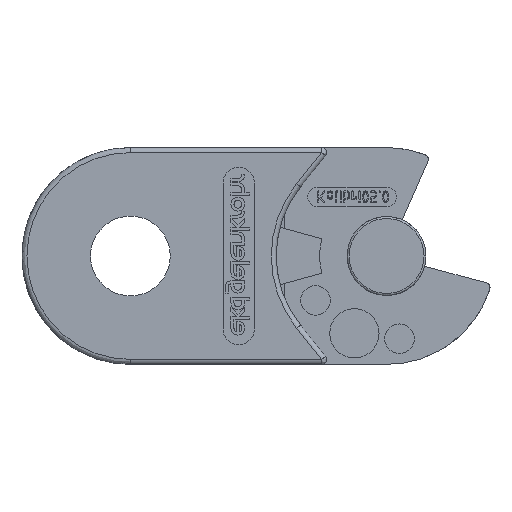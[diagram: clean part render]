
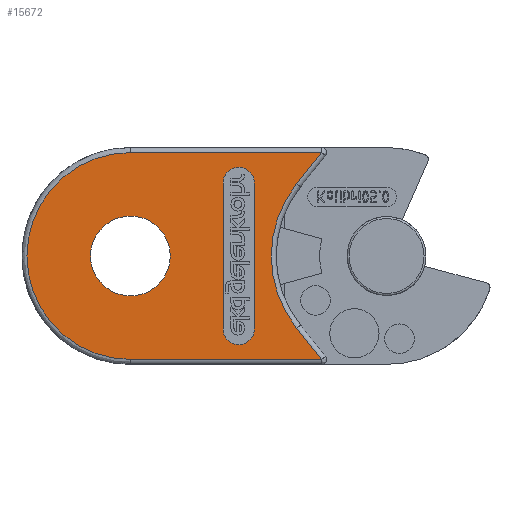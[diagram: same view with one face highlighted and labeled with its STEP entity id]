
A CAD part, left-side view. The second image highlights one B-rep face of the part: STEP entity #15672.
In plain terms, the highlighted free-form (B-spline) face has degree [1, 1] with [2, 2] control points.
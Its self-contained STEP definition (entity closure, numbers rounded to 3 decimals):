
#1018=CARTESIAN_POINT('',(-2.8,8.95,11.));
#1019=VERTEX_POINT('',#1018);
#1020=CARTESIAN_POINT('',(-2.8,13.,11.));
#1021=DIRECTION('',(-1.0,0.0,0.0));
#1022=DIRECTION('',(0.0,1.0,0.0));
#1023=AXIS2_PLACEMENT_3D('',#1020,#1021,#1022);
#1024=CIRCLE('',#1023,4.05);
#1025=EDGE_CURVE('',#1019,#1019,#1024,.T.);
#1256=CARTESIAN_POINT('',(-2.8,13.,0.5));
#1257=VERTEX_POINT('',#1256);
#1273=CARTESIAN_POINT('',(-2.8,-6.419,0.5));
#1274=VERTEX_POINT('',#1273);
#1282=CARTESIAN_POINT('',(-2.8,13.,0.5));
#1283=DIRECTION('',(0.0,-1.0,0.0));
#1284=VECTOR('',#1283,19.419);
#1285=LINE('',#1282,#1284);
#1286=EDGE_CURVE('',#1257,#1274,#1285,.T.);
#1317=CARTESIAN_POINT('',(-2.8,-6.419,21.5));
#1318=VERTEX_POINT('',#1317);
#1334=CARTESIAN_POINT('',(-2.8,13.,21.5));
#1335=VERTEX_POINT('',#1334);
#1343=CARTESIAN_POINT('',(-2.8,-6.419,21.5));
#1344=DIRECTION('',(0.0,1.0,0.0));
#1345=VECTOR('',#1344,19.419);
#1346=LINE('',#1343,#1345);
#1347=EDGE_CURVE('',#1318,#1335,#1346,.T.);
#1393=CARTESIAN_POINT('',(-2.8,-3.868,3.686));
#1394=VERTEX_POINT('',#1393);
#1402=CARTESIAN_POINT('',(-2.8,-6.419,0.5));
#1403=DIRECTION('',(0.0,0.625,0.781));
#1404=VECTOR('',#1403,4.082);
#1405=LINE('',#1402,#1404);
#1406=EDGE_CURVE('',#1274,#1394,#1405,.T.);
#1439=CARTESIAN_POINT('',(-2.8,-3.868,18.314));
#1440=VERTEX_POINT('',#1439);
#1461=CARTESIAN_POINT('',(-2.8,-3.868,18.314));
#1462=DIRECTION('',(0.0,-0.625,0.781));
#1463=VECTOR('',#1462,4.082);
#1464=LINE('',#1461,#1463);
#1465=EDGE_CURVE('',#1440,#1318,#1464,.T.);
#13563=CARTESIAN_POINT('',(-2.8,3.6,3.6));
#13564=VERTEX_POINT('',#13563);
#13565=CARTESIAN_POINT('',(-2.8,0.4,3.6));
#13566=VERTEX_POINT('',#13565);
#13567=CARTESIAN_POINT('',(-2.8,2.,3.6));
#13568=DIRECTION('',(-1.0,0.0,0.0));
#13569=DIRECTION('',(0.0,-1.0,0.0));
#13570=AXIS2_PLACEMENT_3D('',#13567,#13568,#13569);
#13571=CIRCLE('',#13570,1.6);
#13572=EDGE_CURVE('',#13564,#13566,#13571,.T.);
#13605=CARTESIAN_POINT('',(-2.8,0.4,18.4));
#13606=VERTEX_POINT('',#13605);
#13607=CARTESIAN_POINT('',(-2.8,0.4,3.6));
#13608=DIRECTION('',(0.0,0.0,1.0));
#13609=VECTOR('',#13608,14.8);
#13610=LINE('',#13607,#13609);
#13611=EDGE_CURVE('',#13566,#13606,#13610,.T.);
#15601=CARTESIAN_POINT('',(-2.8,3.6,18.4));
#15602=VERTEX_POINT('',#15601);
#15603=CARTESIAN_POINT('',(-2.8,2.,18.4));
#15604=DIRECTION('',(-1.0,0.0,0.0));
#15605=DIRECTION('',(0.0,-1.0,0.0));
#15606=AXIS2_PLACEMENT_3D('',#15603,#15604,#15605);
#15607=CIRCLE('',#15606,1.6);
#15608=EDGE_CURVE('',#13606,#15602,#15607,.T.);
#15626=CARTESIAN_POINT('',(-2.8,3.6,18.4));
#15627=DIRECTION('',(0.0,0.0,-1.0));
#15628=VECTOR('',#15627,14.8);
#15629=LINE('',#15626,#15628);
#15630=EDGE_CURVE('',#15602,#13564,#15629,.T.);
#15638=CARTESIAN_POINT('',(-2.8,23.5,21.5));
#15639=CARTESIAN_POINT('',(-2.8,23.5,0.5));
#15640=CARTESIAN_POINT('',(-2.8,-6.419,21.5));
#15641=CARTESIAN_POINT('',(-2.8,-6.419,0.5));
#15642=B_SPLINE_SURFACE_WITH_KNOTS('',1,1,((#15638,#15640),(#15639,#15641)),.UNSPECIFIED.,.F.,.F.,.U.,(2,2),(2,2),(0.0,21.),(0.0,29.919),.UNSPECIFIED.);
#15643=ORIENTED_EDGE('',*,*,#1465,.T.);
#15644=ORIENTED_EDGE('',*,*,#1347,.T.);
#15645=CARTESIAN_POINT('',(-2.8,13.,11.));
#15646=DIRECTION('',(-1.0,0.0,0.0));
#15647=DIRECTION('',(0.0,1.0,0.0));
#15648=AXIS2_PLACEMENT_3D('',#15645,#15646,#15647);
#15649=CIRCLE('',#15648,10.5);
#15650=EDGE_CURVE('',#1335,#1257,#15649,.T.);
#15651=ORIENTED_EDGE('',*,*,#15650,.T.);
#15652=ORIENTED_EDGE('',*,*,#1286,.T.);
#15653=ORIENTED_EDGE('',*,*,#1406,.T.);
#15654=CARTESIAN_POINT('',(-2.8,-13.,11.));
#15655=DIRECTION('',(1.0,0.0,0.0));
#15656=DIRECTION('',(0.0,1.0,0.0));
#15657=AXIS2_PLACEMENT_3D('',#15654,#15655,#15656);
#15658=CIRCLE('',#15657,11.7);
#15659=EDGE_CURVE('',#1394,#1440,#15658,.T.);
#15660=ORIENTED_EDGE('',*,*,#15659,.T.);
#15661=EDGE_LOOP('',(#15643,#15644,#15651,#15652,#15653,#15660));
#15662=FACE_OUTER_BOUND('',#15661,.T.);
#15663=ORIENTED_EDGE('',*,*,#1025,.F.);
#15664=EDGE_LOOP('',(#15663));
#15665=FACE_BOUND('',#15664,.T.);
#15666=ORIENTED_EDGE('',*,*,#15608,.F.);
#15667=ORIENTED_EDGE('',*,*,#13611,.F.);
#15668=ORIENTED_EDGE('',*,*,#13572,.F.);
#15669=ORIENTED_EDGE('',*,*,#15630,.F.);
#15670=EDGE_LOOP('',(#15666,#15667,#15668,#15669));
#15671=FACE_BOUND('',#15670,.T.);
#15672=ADVANCED_FACE('',(#15662,#15665,#15671),#15642,.T.);
